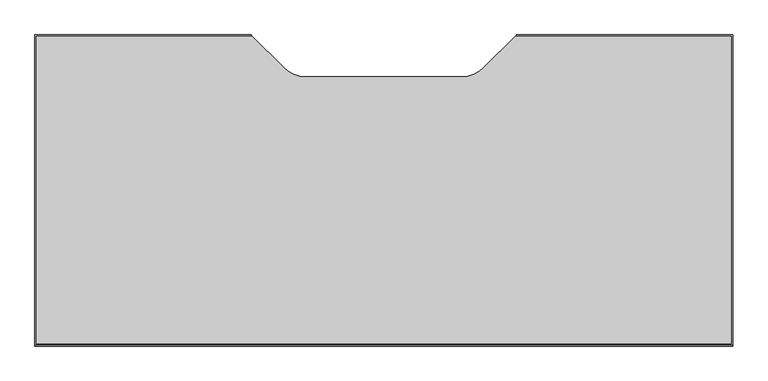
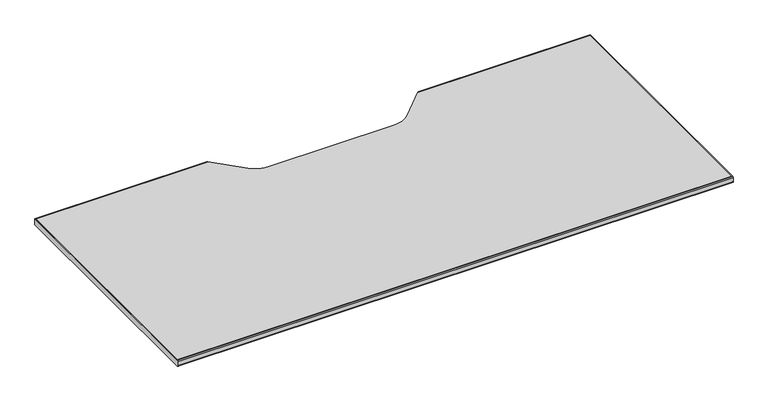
"""IFC4 building model written with IfcOpenShell, lengths in millimetres: furniture geometry, Steelcase Turnstone - Bivi - Table - Table Top : 21D x 48W."""

import ifcopenshell
import ifcopenshell.guid

model = None  # the IFC model being written
_history = None  # IfcOwnerHistory: only IFC2X3 demands one
_inside = {}  # id of a spatial element -> (the spatial element, [elements in it])
_under = {}  # id of a project, library or spatial element -> (it, [spatial elements below it])
_declared = {}  # id of a project -> (the project, [libraries it declares])
_typed = {}  # id of a type object -> (the type object, [elements of that type])
_made_of = {}  # id of a material, layer set ... -> (it, [elements and type objects made of it])


def new_model(schema):
    """Start an empty IFC model of exactly this schema.

    Asked for "IFC4X3", IfcOpenShell would pick the latest addendum, in which some entities
    have other attributes; the version numbers below select the first issue.
    IFC2X3 requires an IfcOwnerHistory on every rooted entity: one is made here for all.
    """
    global model, _history
    if schema == "IFC4X3":
        model = ifcopenshell.file(schema_version=(4, 3, 0, 0))
    else:
        model = ifcopenshell.file(schema=schema)
    _inside.clear()
    _under.clear()
    _declared.clear()
    _typed.clear()
    _made_of.clear()
    _history = None
    if model.schema == "IFC2X3":
        org = make("IfcOrganization", Name="unknown")
        user = make(
            "IfcPersonAndOrganization",
            ThePerson=make("IfcPerson", FamilyName="unknown"),
            TheOrganization=org,
        )
        app = make(
            "IfcApplication",
            ApplicationDeveloper=org,
            Version="unknown",
            ApplicationFullName="unknown",
            ApplicationIdentifier="unknown",
        )
        _history = make(
            "IfcOwnerHistory",
            OwningUser=user,
            OwningApplication=app,
            ChangeAction="ADDED",
            CreationDate=0,
        )
    return model


def make(cls, **values):
    """One entity of the class cls with the attributes given. An attribute that is None is left unset."""
    return model.create_entity(
        cls, **{name: value for name, value in values.items() if value is not None}
    )


def rooted(cls, **values):
    """An entity with a GlobalId (a new one), such as an element, a storey or a relation."""
    return make(cls, GlobalId=ifcopenshell.guid.new(), OwnerHistory=_history, **values)


def si_unit(unit_type, name, prefix=None):
    """IfcSIUnit, for example si_unit("LENGTHUNIT", "METRE", prefix="MILLI")."""
    return make("IfcSIUnit", UnitType=unit_type, Prefix=prefix, Name=name)


def assignment(units):
    """IfcUnitAssignment: the units of a project."""
    return None if units is None else make("IfcUnitAssignment", Units=units)


def point(xyz):
    """IfcCartesianPoint."""
    return None if xyz is None else make("IfcCartesianPoint", Coordinates=xyz)


def direction(xyz):
    """IfcDirection."""
    return None if xyz is None else make("IfcDirection", DirectionRatios=xyz)


def frame(location, z_axis=None, x_axis=None):
    """IfcAxis2Placement3D, a coordinate frame: its origin and axes. An axis left out is left unset."""
    return make(
        "IfcAxis2Placement3D",
        Location=point(location),
        Axis=direction(z_axis),
        RefDirection=direction(x_axis),
    )


def frame_2d(location, x_axis=None):
    """IfcAxis2Placement2D, a coordinate frame in the plane: its origin and x axis."""
    return make(
        "IfcAxis2Placement2D", Location=point(location), RefDirection=direction(x_axis)
    )


def origin():
    """The frame at (0, 0, 0) with its axes left unset."""
    return frame((0.0, 0.0, 0.0))


def place(relative_to, where):
    """IfcLocalPlacement: puts the frame where relative to a parent placement (None: the world)."""
    return make(
        "IfcLocalPlacement", PlacementRelTo=relative_to, RelativePlacement=where
    )


def context(
    kind, dimensions, precision=None, world=None, true_north=None, identifier=None
):
    """IfcGeometricRepresentationContext, for example the 3D "Model" context."""
    return make(
        "IfcGeometricRepresentationContext",
        ContextIdentifier=identifier,
        ContextType=kind,
        CoordinateSpaceDimension=dimensions,
        Precision=precision,
        WorldCoordinateSystem=world,
        TrueNorth=true_north,
    )


def project(units=None, contexts=None):
    """IfcProject with its units and contexts."""
    return rooted(
        "IfcProject",
        Name="project",
        RepresentationContexts=contexts,
        UnitsInContext=assignment(units),
    )


def spatial(cls, under=None, at=None, **own):
    """A site, building, storey or space (cls), placed at a placement, below another one or the project."""
    s = rooted(cls, ObjectPlacement=at, **own)
    if under is not None:
        _under.setdefault(under.id(), (under, []))[1].append(s)
    return s


def polyline(points):
    """IfcPolyline through the points."""
    return make("IfcPolyline", Points=[point(p) for p in points])


def circle_curve(where, radius):
    """IfcCircle in the frame where."""
    return make("IfcCircle", Position=where, Radius=radius)


def trimmed(basis, trim1, trim2, sense, master):
    """IfcTrimmedCurve: the piece of a basis curve between two trims."""
    return make(
        "IfcTrimmedCurve",
        BasisCurve=basis,
        Trim1=trim1,
        Trim2=trim2,
        SenseAgreement=sense,
        MasterRepresentation=master,
    )


def segment(curve, same_sense, transition):
    """IfcCompositeCurveSegment."""
    return make(
        "IfcCompositeCurveSegment",
        Transition=transition,
        SameSense=same_sense,
        ParentCurve=curve,
    )


def composite_curve(segments, self_intersect=None):
    """IfcCompositeCurve: segments joined end to end."""
    return make("IfcCompositeCurve", Segments=segments, SelfIntersect=self_intersect)


def outline(outer, holes=None, kind="AREA"):
    """IfcArbitraryClosedProfileDef: a profile drawn as a closed curve; with holes, ...WithVoids."""
    if holes is None:
        return make("IfcArbitraryClosedProfileDef", ProfileType=kind, OuterCurve=outer)
    return make(
        "IfcArbitraryProfileDefWithVoids",
        ProfileType=kind,
        OuterCurve=outer,
        InnerCurves=holes,
    )


def extrude(swept, where, along, depth):
    """IfcExtrudedAreaSolid: the profile swept, set in the frame where, extruded along a direction by depth."""
    return make(
        "IfcExtrudedAreaSolid",
        SweptArea=swept,
        Position=where,
        ExtrudedDirection=direction(along),
        Depth=depth,
    )


def shape(context_of_items, identifier, shape_type, items):
    """IfcShapeRepresentation: the items that make up one representation, for example the "Body"."""
    return make(
        "IfcShapeRepresentation",
        ContextOfItems=context_of_items,
        RepresentationIdentifier=identifier,
        RepresentationType=shape_type,
        Items=items,
    )


def source(mapping_origin, context_of_items, identifier, shape_type, items):
    """IfcRepresentationMap: a shape defined once, which mapped items show again and again."""
    return make(
        "IfcRepresentationMap",
        MappingOrigin=mapping_origin,
        MappedRepresentation=shape(context_of_items, identifier, shape_type, items),
    )


def transform(
    local_origin,
    x_axis=None,
    y_axis=None,
    z_axis=None,
    scale=None,
    scale2=None,
    scale3=None,
    uniform=True,
):
    """IfcCartesianTransformationOperator3D, or its non-uniform kind. x_axis, y_axis, z_axis: its Axis1, 2, 3."""
    if uniform:
        return make(
            "IfcCartesianTransformationOperator3D",
            Axis1=direction(x_axis),
            Axis2=direction(y_axis),
            LocalOrigin=point(local_origin),
            Scale=scale,
            Axis3=direction(z_axis),
        )
    return make(
        "IfcCartesianTransformationOperator3DnonUniform",
        Axis1=direction(x_axis),
        Axis2=direction(y_axis),
        LocalOrigin=point(local_origin),
        Scale=scale,
        Axis3=direction(z_axis),
        Scale2=scale2,
        Scale3=scale3,
    )


def mapped(mapping_source, mapping_target):
    """IfcMappedItem: shows the shape of a source again, moved by a transform."""
    return make(
        "IfcMappedItem", MappingSource=mapping_source, MappingTarget=mapping_target
    )


def made_of(thing, what):
    """Note that an element or type object is made of a material, layer set ...; save() writes the relation."""
    if what is not None:
        _made_of.setdefault(what.id(), (what, []))[1].append(thing)
    return thing


def element(
    cls,
    number,
    at=None,
    inside=None,
    cuts=None,
    type_object=None,
    material=None,
    context=None,
    identifier="Body",
    shape_type=None,
    held_by="IfcProductDefinitionShape",
    body=None,
    shapes=None,
    **own,
):
    """One element of the class cls, such as IfcWall. Its Tag is "e" and its number.

    at: its placement. inside: the storey or other place that contains it. cuts: it is an
    opening in that element (IfcRelVoidsElement). A single representation is given by context,
    identifier, shape_type and body (its items); several are given by shapes. held_by: the class
    of the entity that holds the representations. save() writes the other relations.
    """
    e = rooted(cls, Tag="e%d" % number, ObjectPlacement=at, **own)
    if body is not None:
        shapes = [shape(context, identifier, shape_type, body)]
    if shapes is not None:
        e.Representation = make(held_by, Representations=shapes)
    if inside is not None:
        _inside.setdefault(inside.id(), (inside, []))[1].append(e)
    if cuts is not None:
        rooted(
            "IfcRelVoidsElement", RelatingBuildingElement=cuts, RelatedOpeningElement=e
        )
    if type_object is not None:
        _typed.setdefault(type_object.id(), (type_object, []))[1].append(e)
    return made_of(e, material)


def aggregate(whole, parts):
    """IfcRelAggregates: a whole, such as a stair, and the parts it consists of."""
    return rooted("IfcRelAggregates", RelatingObject=whole, RelatedObjects=parts)


def save(model, path):
    """Write the relations noted so far, then the file.

    IfcRelAggregates (storeys below a building ...), IfcRelContainedInSpatialStructure (elements
    in a storey), IfcRelDefinesByType, IfcRelAssociatesMaterial and IfcRelDeclares: one each for
    every whole, place, type object, material and project.
    """
    for whole, parts in _under.values():
        aggregate(whole, parts)
    for where, things in _inside.values():
        rooted(
            "IfcRelContainedInSpatialStructure",
            RelatedElements=things,
            RelatingStructure=where,
        )
    for kind, things in _typed.values():
        rooted("IfcRelDefinesByType", RelatedObjects=things, RelatingType=kind)
    for what, things in _made_of.values():
        rooted("IfcRelAssociatesMaterial", RelatedObjects=things, RelatingMaterial=what)
    for by, libraries in _declared.values():
        rooted("IfcRelDeclares", RelatingContext=by, RelatedDefinitions=libraries)
    model.write(path)


def plane_surface(at):
    """IfcPlane: the flat surface through the origin of the frame at, square to its z axis."""
    return make("IfcPlane", Position=at)


def cylinder_surface(at, radius):
    """IfcCylindricalSurface: all points at the distance radius from the z axis of the frame at."""
    return make("IfcCylindricalSurface", Position=at, Radius=radius)


def advanced_brep(points, edges, surfaces, faces):
    """IfcAdvancedBrep: a solid bounded by faces that lie on surfaces and meet in shared edges.

    An edge is (start, end): straight between two places in points (the first is 0);
    or (start, end, curve); or (start, end, curve, False) where it runs against its curve.
    A face is (place in surfaces, loops), or (place, loops, False) where it looks against
    its surface's normal. A loop lists edges by number (the first is 1), with a minus sign
    where the edge is run from its end to its start. The first loop is the outer one.
    """
    corners = [point(p) for p in points]
    vertices = [make("IfcVertexPoint", VertexGeometry=c) for c in corners]
    made = []
    for start, end, *more in edges:
        made.append(
            make(
                "IfcEdgeCurve",
                EdgeStart=vertices[start],
                EdgeEnd=vertices[end],
                EdgeGeometry=more[0] if more else make("IfcPolyline", Points=[corners[start], corners[end]]),
                SameSense=more[1] if len(more) > 1 else True,
            )
        )
    hull = []
    for where, loops, *sense in faces:
        bounds = []
        for j, loop in enumerate(loops):
            ring = [make("IfcOrientedEdge", EdgeElement=made[abs(k) - 1], Orientation=k > 0) for k in loop]
            bounds.append(
                make(
                    "IfcFaceOuterBound" if j == 0 else "IfcFaceBound",
                    Bound=make("IfcEdgeLoop", EdgeList=ring),
                    Orientation=True,
                )
            )
        hull.append(make("IfcAdvancedFace", Bounds=bounds, FaceSurface=surfaces[where], SameSense=sense[0] if sense else True))
    return make("IfcAdvancedBrep", Outer=make("IfcClosedShell", CfsFaces=hull))


def furniture_2405483f(model_context):
    return source(origin(), model_context, "Body", "SolidModel", [
        advanced_brep(
        [(514.3499939, 727.0750061, 723.566625), (515.3499939, 726.0750061, 723.566625), (515.3499939, 726.0750061, 710.485625), (514.3499939, 727.0750061, 710.485625), (957.8500067, 726.0750061, 723.566625), (958.8500061, 727.0750061, 723.566625), (958.8500061, 727.0750061, 710.485625), (957.8500067, 726.0750061, 710.485625), (1320.8, 727.0750061, 723.566625), (1319.8, 726.0750061, 723.566625), (1319.8, 209.3750061, 723.566625), (153.4, 209.3750061, 723.566625), (153.4, 726.0750061, 723.566625), (152.4, 727.0750061, 723.566625), (152.4, 208.4070061, 723.566625), (1320.8, 208.4070061, 723.566625), (1319.8, 726.0750061, 710.485625), (1319.8, 209.3750061, 710.485625), (1320.8, 727.0750061, 710.485625), (1320.8, 208.4070061, 710.485625), (152.4, 208.4070061, 710.485625), (152.4, 727.0750061, 710.485625), (153.4, 726.0750061, 710.485625), (153.4, 209.3750061, 710.485625), (1320.8, 206.3750061, 721.534625), (1320.8, 206.3750061, 712.517625), (152.4, 206.3750061, 712.517625), (152.4, 206.3750061, 721.534625)],
        [
            (0, 1),
            (1, 2),
            (2, 3),
            (3, 0),
            (4, 5),
            (5, 6),
            (6, 7),
            (7, 4),
            (8, 5),
            (4, 9),
            (9, 10),
            (10, 11),
            (11, 12),
            (12, 1),
            (0, 13),
            (13, 14),
            (14, 15),
            (15, 8),
            (9, 16),
            (16, 17),
            (17, 10),
            (16, 7),
            (6, 18),
            (18, 19),
            (19, 20),
            (20, 21),
            (21, 3),
            (2, 22),
            (22, 23),
            (23, 17),
            (15, 24, circle_curve(frame((1320.8, 208.4070061, 721.534625), z_axis=(1.0, 0.0, 0.0), x_axis=(0.0, 1.0, 0.0)), 2.032)),
            (24, 25),
            (25, 19, circle_curve(frame((1320.8, 208.4070061, 712.517625), z_axis=(1.0, 0.0, 0.0), x_axis=(0.0, 1.0, 0.0)), 2.032)),
            (18, 8),
            (12, 22),
            (21, 13),
            (11, 23),
            (20, 26, circle_curve(frame((152.4, 208.4070061, 712.517625), z_axis=(-1.0, 0.0, 0.0), x_axis=(0.0, 1.0, 0.0)), 2.032)),
            (26, 27),
            (27, 14, circle_curve(frame((152.4, 208.4070061, 721.534625), z_axis=(-1.0, 0.0, 0.0), x_axis=(0.0, 1.0, 0.0)), 2.032)),
            (25, 26),
            (24, 27),
        ],
        [
            plane_surface(frame((514.3499939, 727.0750061, 724.4389999), z_axis=(0.7071067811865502, 0.7071067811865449, 0.0), x_axis=(0.0, 0.0, -1.0))),
            plane_surface(frame((904.6973766, 672.9223408, 724.4389999), z_axis=(-0.7071070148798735, 0.7071065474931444, 0.0), x_axis=(0.0, 0.0, -1.0))),
            plane_surface(frame((1320.8, 209.3750061, 723.566625), z_axis=(0.0, 0.0, 1.0), x_axis=(0.0, 1.0, 0.0))),
            plane_surface(frame((1319.8, 209.3750061, 723.566625), z_axis=(-1.0, 0.0, 0.0), x_axis=(0.0, 1.0, 0.0))),
            plane_surface(frame((1319.8, 209.3750061, 710.485625), z_axis=(0.0, 0.0, -1.0), x_axis=(0.0, 1.0, 0.0))),
            plane_surface(frame((1320.8, 209.3750061, 710.485625), z_axis=(1.0, 0.0, 0.0), x_axis=(0.0, 1.0, 0.0))),
            plane_surface(frame((1319.8, 726.0750061, 723.566625), z_axis=(0.0, -1.0, 0.0), x_axis=(-1.0, 0.0, 0.0))),
            plane_surface(frame((1320.8, 727.0750061, 710.485625), z_axis=(0.0, 1.0, 0.0), x_axis=(-1.0, 0.0, 0.0))),
            plane_surface(frame((153.4, 726.0750061, 723.566625), z_axis=(1.0, 0.0, 0.0), x_axis=(0.0, -1.0, 0.0))),
            plane_surface(frame((152.4, 727.0750061, 710.485625), z_axis=(-1.0, 0.0, 0.0), x_axis=(0.0, -1.0, 0.0))),
            cylinder_surface(frame((152.4, 208.4070061, 712.517625), z_axis=(-1.0, 0.0, 0.0), x_axis=(0.0, 1.0, 0.0)), 2.032),
            plane_surface(frame((152.4, 206.3750061, 712.517625), z_axis=(0.0, -1.0, 0.0), x_axis=(1.0, 0.0, 0.0))),
            cylinder_surface(frame((152.4, 208.4070061, 721.534625), z_axis=(-1.0, 0.0, 0.0), x_axis=(0.0, 1.0, 0.0)), 2.032),
            plane_surface(frame((152.4, 209.3750061, 723.566625), z_axis=(0.0, 1.0, 0.0), x_axis=(1.0, 0.0, 0.0))),
        ],
        [
            (0, [[1, 2, 3, 4]]),
            (1, [[5, 6, 7, 8]]),
            (2, [[9, -5, 10, 11, 12, 13, 14, -1, 15, 16, 17, 18]]),
            (3, [[-11, 19, 20, 21]]),
            (4, [[-20, 22, -7, 23, 24, 25, 26, 27, -3, 28, 29, 30]]),
            (5, [[-18, 31, 32, 33, -24, 34]]),
            (6, [[-19, -10, -8, -22]]),
            (6, [[35, -28, -2, -14]]),
            (7, [[-34, -23, -6, -9]]),
            (7, [[36, -15, -4, -27]]),
            (8, [[-13, 37, -29, -35]]),
            (9, [[-16, -36, -26, 38, 39, 40]]),
            (10, [[-38, -25, -33, 41]]),
            (11, [[-39, -41, -32, 42]]),
            (12, [[-40, -42, -31, -17]]),
            (13, [[-30, -37, -12, -21]]),
        ],
    ),
        extrude(outline(composite_curve([segment(polyline([(1319.8, 726.0750061), (1319.8, 209.3750061), (153.4, 209.3750061), (153.4, 726.0750061), (515.3499939, 726.0750061), (568.512149, 672.912851)]), True, "CONTINUOUS"), segment(trimmed(circle_curve(frame_2d((606.3859497, 710.7866517)), 53.5616426), [point((568.512149, 672.912851))], [point((606.3859497, 657.2250091))], True, "CARTESIAN"), True, "CONTINUOUS"), segment(polyline([(606.3859497, 657.2250091), (866.8006832, 657.2250091)]), True, "CONTINUOUS"), segment(trimmed(circle_curve(frame_2d((866.8006832, 710.8190091)), 53.594), [point((866.8006832, 657.2250091))], [point((904.6973766, 672.9223408))], True, "CARTESIAN"), True, "CONTINUOUS"), segment(polyline([(904.6973766, 672.9223408), (957.8500067, 726.0750061), (1319.8, 726.0750061)]), True, "CONTINUOUS")], self_intersect=False)), frame((0.0, 0.0, 710.485625), z_axis=(0.0, 0.0, 1.0), x_axis=(1.0, 0.0, 0.0)), (0.0, 0.0, 1.0), 13.081),
    ])


if __name__ == "__main__":
    model = new_model("IFC4")
    model_context = context("Model", 3, world=origin())
    ifc_project = project(units=[si_unit("LENGTHUNIT", "METRE", prefix="MILLI")], contexts=[model_context])
    site = spatial("IfcSite", under=ifc_project)
    building = spatial("IfcBuilding", under=site)
    placement = place(None, origin())
    furniture_shape = furniture_2405483f(model_context)
    element("IfcFurniture", 1, ObjectType="Steelcase Turnstone - Bivi - Table - Table Top : 21D x 48W", at=placement, inside=building, context=model_context, shape_type="MappedRepresentation", body=[
        mapped(furniture_shape, transform((0.0, 0.0, 0.0), x_axis=(1.0, 0.0, 0.0), y_axis=(0.0, 1.0, 0.0), z_axis=(0.0, 0.0, 1.0))),
    ])
    save(model, "model.ifc")
